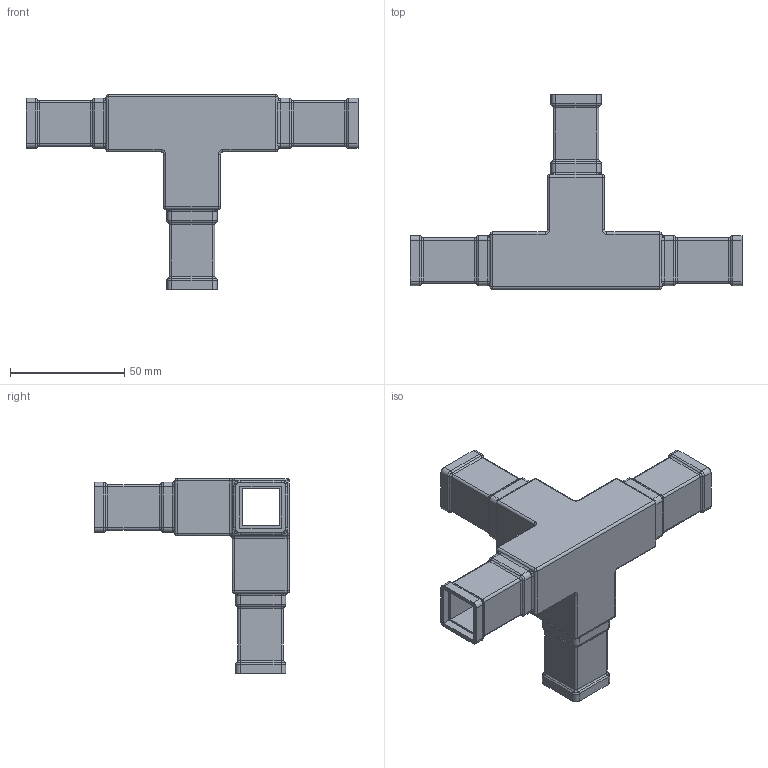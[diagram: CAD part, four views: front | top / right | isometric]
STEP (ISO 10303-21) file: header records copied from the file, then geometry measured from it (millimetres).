
FILE_DESCRIPTION (( 'STEP AP214' ), '1' );
FILE_NAME ('115.301.105.STEP', '2023-06-15T07:45:01', ( '' ), ( '' ), 'SwSTEP 2.0', 'SolidWorks 2021', '' );
FILE_SCHEMA (( 'AUTOMOTIVE_DESIGN' ));
Length unit declared in the file: millimetre
Products named in the file (1): 115.301.105
Bounding box: 145 x 85 x 85 mm (x, y, z)
Volume: 39580.4 mm3; surface area: 43698.9 mm2
Topology: 1 solids, 1 shells, 456 faces, 1012 edges, 552 vertices
Faces by surface type: cylinder 164, plane 152, bspline 140
Entity records: 15074 total; most frequent: CARTESIAN_POINT 5679, ORIENTED_EDGE 1992, DIRECTION 1914, EDGE_CURVE 996, AXIS2_PLACEMENT_3D 703, VERTEX_POINT 552, LINE 508, VECTOR 508
